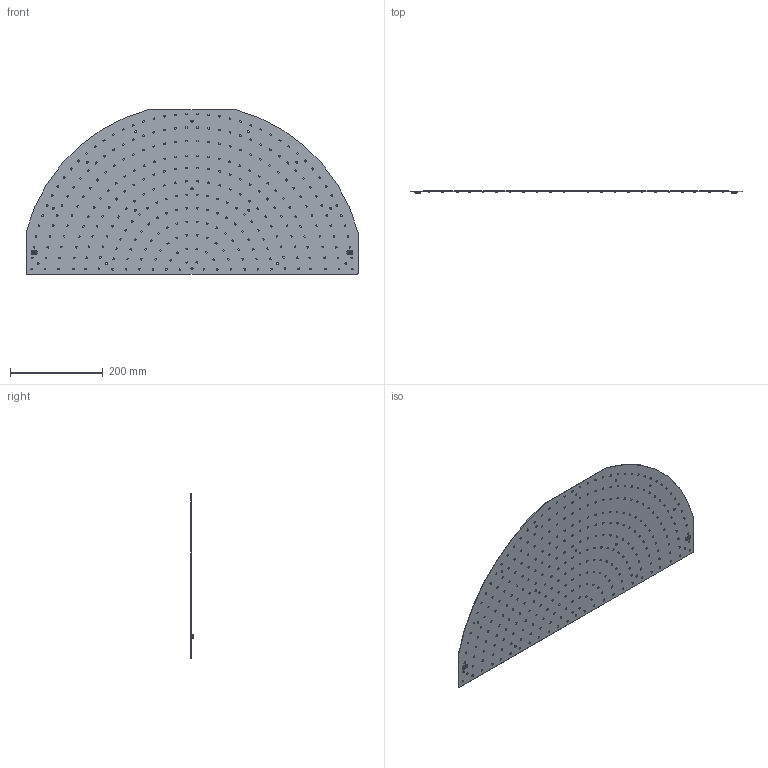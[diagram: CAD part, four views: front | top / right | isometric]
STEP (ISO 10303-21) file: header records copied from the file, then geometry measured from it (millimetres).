
FILE_DESCRIPTION(/* description */ ('Unknown'),/* implementation_level */ '2;1');
FILE_NAME(/* name */ 'RdLED 1_2 740mm G2',/* time_stamp */ '2020-07-13T11:55:57+02:00',/* author */ ('Unknown'),/* organization */ ('Unknown'),/* preprocessor_version */ 'ST-DEVELOPER v16.7',/* originating_system */ 'Solid Edge',/* authorisation */ 'Unknown');
FILE_SCHEMA (('AUTOMOTIVE_DESIGN {1 0 10303 214 3 1 1}'));
Products named in the file (1): RdLED 1_2 740mm G2
Bounding box: 716 x 4.45 x 355.5 mm (x, y, z)
Volume: 213026.6 mm3; surface area: 426358.8 mm2
Topology: 1 solids, 1 shells, 5631 faces, 14761 edges, 9730 vertices
Faces by surface type: plane 5124, cylinder 239, bspline 174, cone 52, torus 22, sphere 20
Full cylindrical faces by diameter (mm): 4.5 x15
Entity records: 213707 total; most frequent: CARTESIAN_POINT 37000, ORIENTED_EDGE 29416, DIRECTION 25420, EDGE_CURVE 14708, LINE 13608, VECTOR 13608, VERTEX_POINT 9720, EDGE_LOOP 6314
